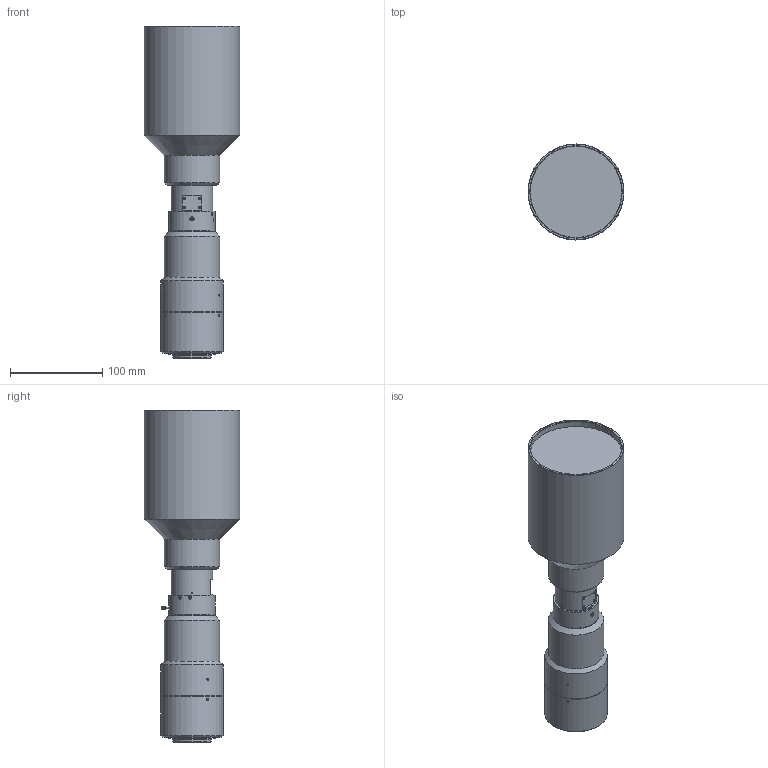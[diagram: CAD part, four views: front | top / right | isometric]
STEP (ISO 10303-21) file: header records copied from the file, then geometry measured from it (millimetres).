
FILE_DESCRIPTION (( 'STEP AP203' ), '1' );
FILE_NAME ('drawing_mtl-8035p-044.STEP', '2016-12-01T09:52:03', ( '' ), ( '' ), 'SwSTEP 2.0', 'SolidWorks 2014', '' );
FILE_SCHEMA (( 'CONFIG_CONTROL_DESIGN' ));
Length unit declared in the file: millimetre
Products named in the file (1): drawing_mtl-8035p-044
Bounding box: 104 x 104 x 359.77 mm (x, y, z)
Volume: 1680523 mm3; surface area: 106338 mm2
Topology: 1 solids, 2 shells, 366 faces, 929 edges, 606 vertices
Faces by surface type: plane 157, cylinder 124, cone 48, bspline 36, torus 1
Full cylindrical faces by diameter (mm): 1.3 x1, 1.548 x1, 1.6 x1, 2 x3, 2.5 x10, 3 x2, 4 x1, 4.5 x1, 39 x1, 40.916 x1, 42 x1, 45 x2, 45.5 x2, 50 x2, 60 x2, 68 x2, 98.92 x1, 104 x1
Entity records: 18519 total; most frequent: CARTESIAN_POINT 10893, ORIENTED_EDGE 1656, DIRECTION 1252, EDGE_CURVE 828, VERTEX_POINT 572, AXIS2_PLACEMENT_3D 499, EDGE_LOOP 474, FACE_OUTER_BOUND 402
